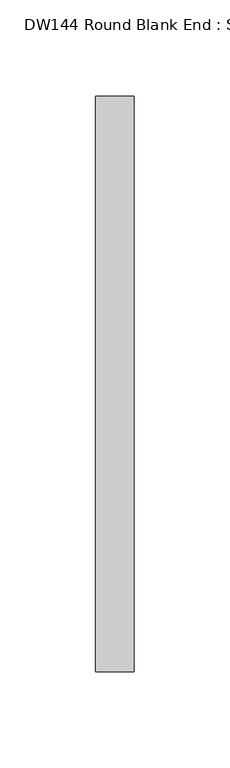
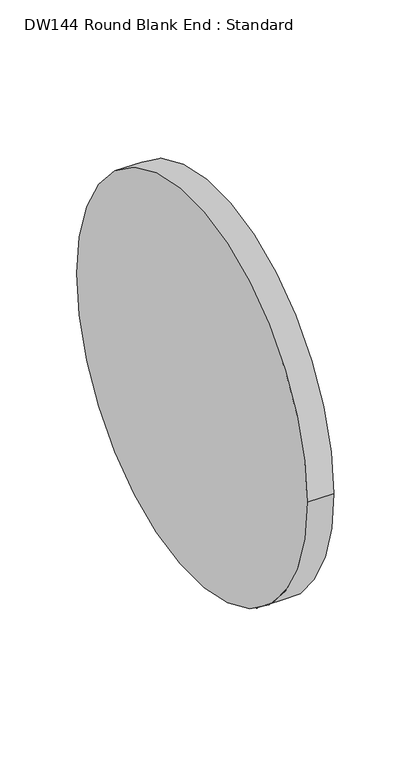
"""IFC4 building model written with IfcOpenShell, lengths in millimetres: duct fitting geometry, DW144 Round Blank End : Standard."""

from ifc_helpers import new_model, si_unit, point, frame, origin, origin_2d, place, context, project, spatial, circle_curve, trimmed, segment, composite_curve, outline, extrude, source, transform, mapped, element, save


def dw144_round_blank_end_standard_5beff049(model_context):
    return source(origin(), model_context, "Body", "SweptSolid", [
        extrude(outline(composite_curve([segment(trimmed(circle_curve(origin_2d(), 150.0), [point((-150.0, 0.0))], [point((150.0, 0.0))], False, "CARTESIAN"), True, "CONTINUOUS"), segment(trimmed(circle_curve(origin_2d(), 150.0), [point((150.0, 0.0))], [point((-150.0, 0.0))], False, "CARTESIAN"), True, "CONTINUOUS")], self_intersect=False)), frame((0.0, 0.0, 0.0), z_axis=(1.0, 0.0, 0.0), x_axis=(0.0, 1.0, 0.0)), (0.0, 0.0, 1.0), 20.0),
    ])


if __name__ == "__main__":
    model = new_model("IFC4")
    model_context = context("Model", 3, world=origin())
    ifc_project = project(units=[si_unit("LENGTHUNIT", "METRE", prefix="MILLI")], contexts=[model_context])
    site = spatial("IfcSite", under=ifc_project)
    building = spatial("IfcBuilding", under=site)
    placement = place(None, origin())
    dw144_round_blank_end_standard_shape = dw144_round_blank_end_standard_5beff049(model_context)
    element("IfcDuctFitting", 1, ObjectType="DW144 Round Blank End : Standard", at=placement, inside=building, context=model_context, shape_type="MappedRepresentation", body=[
        mapped(dw144_round_blank_end_standard_shape, transform((0.0, 0.0, 0.0), x_axis=(1.0, 0.0, 0.0), y_axis=(0.0, 1.0, 0.0), z_axis=(0.0, 0.0, 1.0))),
    ])
    save(model, "model.ifc")
